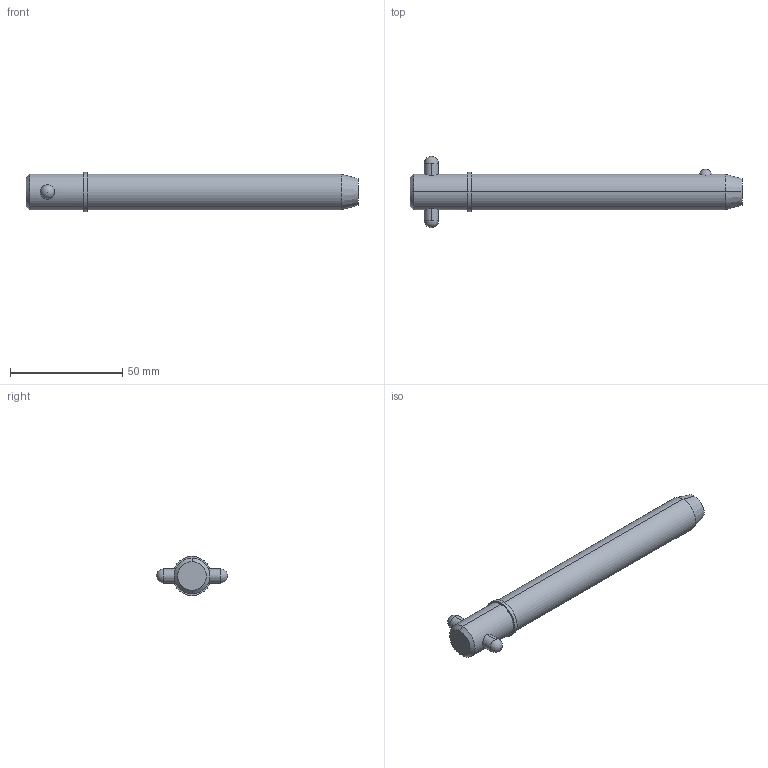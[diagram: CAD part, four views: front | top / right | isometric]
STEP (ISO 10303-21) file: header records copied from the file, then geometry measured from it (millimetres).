
FILE_DESCRIPTION (( 'STEP AP203' ), '1' );
FILE_NAME ('33018.W6240.step', '2024-11-19T17:18:50', ( '' ), ( '' ), 'SwSTEP 2.0', 'SolidWorks 2019', '' );
FILE_SCHEMA (( 'CONFIG_CONTROL_DESIGN' ));
Length unit declared in the file: millimetre
Products named in the file (3): 33018.W6240; Part1_33018.W6240; Part2_33018.W6240
Assembly tree (2 placements, depth 2):
  33018.W6240
    Part1_33018.W6240
    Part2_33018.W6240
Bounding box: 147.96 x 31.75 x 17.47 mm (x, y, z)
Volume: 29457.3 mm3; surface area: 8588.1 mm2
Topology: 2 solids, 2 shells, 22 faces, 47 edges, 30 vertices
Faces by surface type: cylinder 10, sphere 4, cone 4, plane 4
Entity records: 1047 total; most frequent: CARTESIAN_POINT 290, DIRECTION 110, ORIENTED_EDGE 82, AXIS2_PLACEMENT_3D 48, EDGE_CURVE 41, EDGE_LOOP 27, PERSON_AND_ORGANIZATION 26, VERTEX_POINT 26
